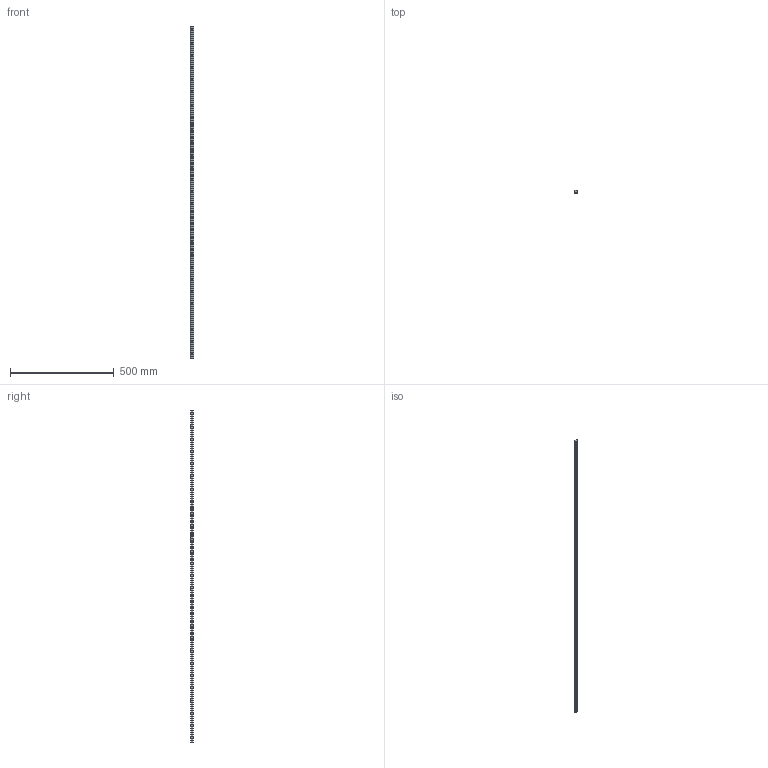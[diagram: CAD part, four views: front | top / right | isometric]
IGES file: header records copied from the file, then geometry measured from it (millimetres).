
Start section: SolidWorks IGES file using analytic representation for surfaces
Global section: file name: C:\Users\IanO\Desktop\L1016_v2\L1016.BL15_v2\L1016.BL15_v2_20190611_IGES\L1016.BL15-1600.igs; native system: SolidWorks 2017; preprocessor: SolidWorks 2017; author: IanO; date: 190612.122918; units: millimetre
Bounding box: 15 x 13 x 1600 mm (x, y, z)
Surface area: 97909.8 mm2 (no closed solid volume)
Topology: 0 solids, 0 shells, 161 faces, 4040 edges, 4040 vertices
Faces by surface type: revolution 112, bspline 49
